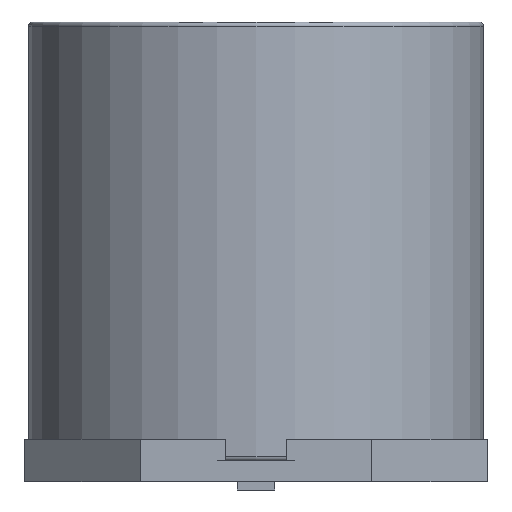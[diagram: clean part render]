
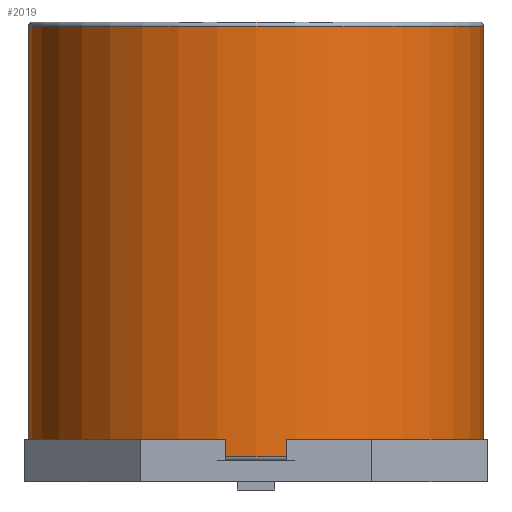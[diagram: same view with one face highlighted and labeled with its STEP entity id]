
A CAD part, left-side view. The second image highlights one B-rep face of the part: STEP entity #2019.
In plain terms, the highlighted cylindrical face has radius 8.5 mm (diameter 17 mm), a full revolution.
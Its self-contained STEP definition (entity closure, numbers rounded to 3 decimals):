
#2019 = ADVANCED_FACE('',(#2020),#2034,.T.);
#2020 = FACE_BOUND('',#2021,.T.);
#2021 = EDGE_LOOP('',(#2022,#2052,#2079,#2080));
#2022 = ORIENTED_EDGE('',*,*,#2023,.T.);
#2023 = EDGE_CURVE('',#2024,#2026,#2028,.T.);
#2024 = VERTEX_POINT('',#2025);
#2025 = CARTESIAN_POINT('',(8.5,0.,1.25));
#2026 = VERTEX_POINT('',#2027);
#2027 = CARTESIAN_POINT('',(8.5,0.,17.35));
#2028 = SEAM_CURVE('',#2029,(#2033,#2045),.PCURVE_S1.);
#2029 = LINE('',#2030,#2031);
#2030 = CARTESIAN_POINT('',(8.5,0.,1.1));
#2031 = VECTOR('',#2032,1.);
#2032 = DIRECTION('',(0.,0.,1.));
#2033 = PCURVE('',#2034,#2039);
#2034 = CYLINDRICAL_SURFACE('',#2035,8.5);
#2035 = AXIS2_PLACEMENT_3D('',#2036,#2037,#2038);
#2036 = CARTESIAN_POINT('',(0.,0.,1.1));
#2037 = DIRECTION('',(0.,0.,1.));
#2038 = DIRECTION('',(1.,0.,0.));
#2039 = DEFINITIONAL_REPRESENTATION('',(#2040),#2044);
#2040 = LINE('',#2041,#2042);
#2041 = CARTESIAN_POINT('',(6.283,-0.));
#2042 = VECTOR('',#2043,1.);
#2043 = DIRECTION('',(0.,1.));
#2044 = ( GEOMETRIC_REPRESENTATION_CONTEXT(2) 
PARAMETRIC_REPRESENTATION_CONTEXT() REPRESENTATION_CONTEXT('2D SPACE',''
  ) );
#2045 = PCURVE('',#2034,#2046);
#2046 = DEFINITIONAL_REPRESENTATION('',(#2047),#2051);
#2047 = LINE('',#2048,#2049);
#2048 = CARTESIAN_POINT('',(0.,-0.));
#2049 = VECTOR('',#2050,1.);
#2050 = DIRECTION('',(0.,1.));
#2051 = ( GEOMETRIC_REPRESENTATION_CONTEXT(2) 
PARAMETRIC_REPRESENTATION_CONTEXT() REPRESENTATION_CONTEXT('2D SPACE',''
  ) );
#2052 = ORIENTED_EDGE('',*,*,#2053,.F.);
#2053 = EDGE_CURVE('',#2026,#2026,#2054,.T.);
#2054 = SURFACE_CURVE('',#2055,(#2060,#2067),.PCURVE_S1.);
#2055 = CIRCLE('',#2056,8.5);
#2056 = AXIS2_PLACEMENT_3D('',#2057,#2058,#2059);
#2057 = CARTESIAN_POINT('',(0.,0.,17.35));
#2058 = DIRECTION('',(0.,0.,1.));
#2059 = DIRECTION('',(1.,0.,-0.));
#2060 = PCURVE('',#2034,#2061);
#2061 = DEFINITIONAL_REPRESENTATION('',(#2062),#2066);
#2062 = LINE('',#2063,#2064);
#2063 = CARTESIAN_POINT('',(0.,16.25));
#2064 = VECTOR('',#2065,1.);
#2065 = DIRECTION('',(1.,0.));
#2066 = ( GEOMETRIC_REPRESENTATION_CONTEXT(2) 
PARAMETRIC_REPRESENTATION_CONTEXT() REPRESENTATION_CONTEXT('2D SPACE',''
  ) );
#2067 = PCURVE('',#2068,#2073);
#2068 = TOROIDAL_SURFACE('',#2069,8.35,0.15);
#2069 = AXIS2_PLACEMENT_3D('',#2070,#2071,#2072);
#2070 = CARTESIAN_POINT('',(0.,0.,17.35));
#2071 = DIRECTION('',(0.,0.,1.));
#2072 = DIRECTION('',(1.,0.,-0.));
#2073 = DEFINITIONAL_REPRESENTATION('',(#2074),#2078);
#2074 = LINE('',#2075,#2076);
#2075 = CARTESIAN_POINT('',(0.,0.));
#2076 = VECTOR('',#2077,1.);
#2077 = DIRECTION('',(1.,0.));
#2078 = ( GEOMETRIC_REPRESENTATION_CONTEXT(2) 
PARAMETRIC_REPRESENTATION_CONTEXT() REPRESENTATION_CONTEXT('2D SPACE',''
  ) );
#2079 = ORIENTED_EDGE('',*,*,#2023,.F.);
#2080 = ORIENTED_EDGE('',*,*,#2081,.T.);
#2081 = EDGE_CURVE('',#2024,#2024,#2082,.T.);
#2082 = SURFACE_CURVE('',#2083,(#2088,#2095),.PCURVE_S1.);
#2083 = CIRCLE('',#2084,8.5);
#2084 = AXIS2_PLACEMENT_3D('',#2085,#2086,#2087);
#2085 = CARTESIAN_POINT('',(0.,0.,1.25));
#2086 = DIRECTION('',(0.,0.,1.));
#2087 = DIRECTION('',(1.,0.,-0.));
#2088 = PCURVE('',#2034,#2089);
#2089 = DEFINITIONAL_REPRESENTATION('',(#2090),#2094);
#2090 = LINE('',#2091,#2092);
#2091 = CARTESIAN_POINT('',(0.,0.15));
#2092 = VECTOR('',#2093,1.);
#2093 = DIRECTION('',(1.,0.));
#2094 = ( GEOMETRIC_REPRESENTATION_CONTEXT(2) 
PARAMETRIC_REPRESENTATION_CONTEXT() REPRESENTATION_CONTEXT('2D SPACE',''
  ) );
#2095 = PCURVE('',#2096,#2101);
#2096 = TOROIDAL_SURFACE('',#2097,8.35,0.15);
#2097 = AXIS2_PLACEMENT_3D('',#2098,#2099,#2100);
#2098 = CARTESIAN_POINT('',(0.,0.,1.25));
#2099 = DIRECTION('',(-0.,-0.,-1.));
#2100 = DIRECTION('',(1.,0.,-0.));
#2101 = DEFINITIONAL_REPRESENTATION('',(#2102),#2106);
#2102 = LINE('',#2103,#2104);
#2103 = CARTESIAN_POINT('',(-0.,0.));
#2104 = VECTOR('',#2105,1.);
#2105 = DIRECTION('',(-1.,0.));
#2106 = ( GEOMETRIC_REPRESENTATION_CONTEXT(2) 
PARAMETRIC_REPRESENTATION_CONTEXT() REPRESENTATION_CONTEXT('2D SPACE',''
  ) );
